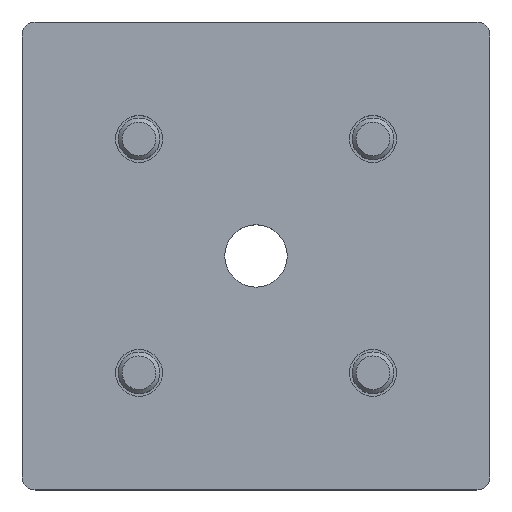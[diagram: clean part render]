
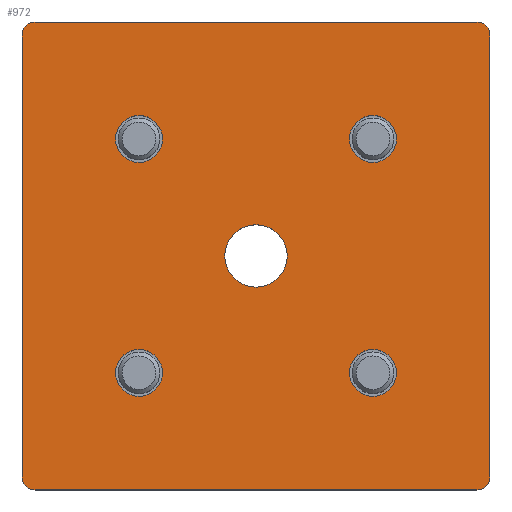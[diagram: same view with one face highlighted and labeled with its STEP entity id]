
A CAD part, top view. The second image highlights one B-rep face of the part: STEP entity #972.
In plain terms, the highlighted planar face has unit normal (0, 0, 1).
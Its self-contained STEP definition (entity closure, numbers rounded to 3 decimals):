
#341=CARTESIAN_POINT('',(-45.0,42.5,15.0));
#342=VERTEX_POINT('',#341);
#349=CARTESIAN_POINT('',(-42.5,45.0,15.0));
#350=VERTEX_POINT('',#349);
#351=CARTESIAN_POINT('',(-42.5,42.5,15.0));
#352=DIRECTION('',(0.0,0.0,-1.));
#353=DIRECTION('',(-0.707,0.707,0.0));
#354=AXIS2_PLACEMENT_3D('',#351,#352,#353);
#355=CIRCLE('',#354,2.5);
#356=EDGE_CURVE('',#342,#350,#355,.T.);
#373=CARTESIAN_POINT('',(-45.0,-42.5,15.0));
#374=VERTEX_POINT('',#373);
#381=CARTESIAN_POINT('',(-45.0,-42.5,15.0));
#382=DIRECTION('',(0.0,1.0,0.0));
#383=VECTOR('',#382,85.0);
#384=LINE('',#381,#383);
#385=EDGE_CURVE('',#374,#342,#384,.T.);
#397=CARTESIAN_POINT('',(-42.5,-45.0,15.0));
#398=VERTEX_POINT('',#397);
#405=CARTESIAN_POINT('',(-42.5,-42.5,15.0));
#406=DIRECTION('',(0.0,0.0,-1.));
#407=DIRECTION('',(-0.707,-0.707,0.0));
#408=AXIS2_PLACEMENT_3D('',#405,#406,#407);
#409=CIRCLE('',#408,2.5);
#410=EDGE_CURVE('',#398,#374,#409,.T.);
#422=CARTESIAN_POINT('',(42.5,-45.0,15.0));
#423=VERTEX_POINT('',#422);
#430=CARTESIAN_POINT('',(42.5,-45.0,15.0));
#431=DIRECTION('',(-1.0,0.0,0.0));
#432=VECTOR('',#431,85.0);
#433=LINE('',#430,#432);
#434=EDGE_CURVE('',#423,#398,#433,.T.);
#757=CARTESIAN_POINT('',(42.5,45.0,15.0));
#758=VERTEX_POINT('',#757);
#765=CARTESIAN_POINT('',(45.0,42.5,15.0));
#766=VERTEX_POINT('',#765);
#767=CARTESIAN_POINT('',(42.5,42.5,15.0));
#768=DIRECTION('',(0.0,0.0,-1.));
#769=DIRECTION('',(0.707,0.707,0.0));
#770=AXIS2_PLACEMENT_3D('',#767,#768,#769);
#771=CIRCLE('',#770,2.5);
#772=EDGE_CURVE('',#758,#766,#771,.T.);
#790=CARTESIAN_POINT('',(-42.5,45.0,15.0));
#791=DIRECTION('',(1.0,0.0,0.0));
#792=VECTOR('',#791,85.0);
#793=LINE('',#790,#792);
#794=EDGE_CURVE('',#350,#758,#793,.T.);
#806=CARTESIAN_POINT('',(45.0,-42.5,15.0));
#807=VERTEX_POINT('',#806);
#814=CARTESIAN_POINT('',(42.5,-42.5,15.0));
#815=DIRECTION('',(0.0,0.0,-1.));
#816=DIRECTION('',(0.707,-0.707,0.0));
#817=AXIS2_PLACEMENT_3D('',#814,#815,#816);
#818=CIRCLE('',#817,2.5);
#819=EDGE_CURVE('',#807,#423,#818,.T.);
#830=CARTESIAN_POINT('',(6.,0.,15.0));
#831=VERTEX_POINT('',#830);
#832=CARTESIAN_POINT('',(0.0,0.0,15.0));
#833=DIRECTION('',(0.0,0.0,-1.0));
#834=DIRECTION('',(-1.0,0.0,0.0));
#835=AXIS2_PLACEMENT_3D('',#832,#833,#834);
#836=CIRCLE('',#835,6.);
#837=EDGE_CURVE('',#831,#831,#836,.T.);
#853=CARTESIAN_POINT('',(27.,-22.5,15.0));
#854=VERTEX_POINT('',#853);
#855=CARTESIAN_POINT('',(22.5,-22.5,15.0));
#856=DIRECTION('',(0.0,0.0,-1.0));
#857=DIRECTION('',(-1.0,0.0,0.0));
#858=AXIS2_PLACEMENT_3D('',#855,#856,#857);
#859=CIRCLE('',#858,4.5);
#860=EDGE_CURVE('',#854,#854,#859,.T.);
#873=CARTESIAN_POINT('',(-18.,-22.5,15.0));
#874=VERTEX_POINT('',#873);
#875=CARTESIAN_POINT('',(-22.5,-22.5,15.0));
#876=DIRECTION('',(0.0,0.0,-1.0));
#877=DIRECTION('',(-1.0,0.0,0.0));
#878=AXIS2_PLACEMENT_3D('',#875,#876,#877);
#879=CIRCLE('',#878,4.5);
#880=EDGE_CURVE('',#874,#874,#879,.T.);
#893=CARTESIAN_POINT('',(27.0,22.5,15.0));
#894=VERTEX_POINT('',#893);
#895=CARTESIAN_POINT('',(22.5,22.5,15.0));
#896=DIRECTION('',(0.0,0.0,-1.0));
#897=DIRECTION('',(-1.0,0.0,0.0));
#898=AXIS2_PLACEMENT_3D('',#895,#896,#897);
#899=CIRCLE('',#898,4.5);
#900=EDGE_CURVE('',#894,#894,#899,.T.);
#913=CARTESIAN_POINT('',(-18.0,22.5,15.0));
#914=VERTEX_POINT('',#913);
#915=CARTESIAN_POINT('',(-22.5,22.5,15.0));
#916=DIRECTION('',(0.0,0.0,-1.0));
#917=DIRECTION('',(-1.0,0.0,0.0));
#918=AXIS2_PLACEMENT_3D('',#915,#916,#917);
#919=CIRCLE('',#918,4.5);
#920=EDGE_CURVE('',#914,#914,#919,.T.);
#932=CARTESIAN_POINT('',(45.0,42.5,15.0));
#933=DIRECTION('',(0.0,-1.0,0.0));
#934=VECTOR('',#933,85.0);
#935=LINE('',#932,#934);
#936=EDGE_CURVE('',#766,#807,#935,.T.);
#942=CARTESIAN_POINT('',(0.0,0.,15.0));
#943=DIRECTION('',(0.0,0.0,1.0));
#944=DIRECTION('',(1.0,0.0,0.0));
#945=AXIS2_PLACEMENT_3D('',#942,#943,#944);
#946=PLANE('',#945);
#947=ORIENTED_EDGE('',*,*,#772,.F.);
#948=ORIENTED_EDGE('',*,*,#794,.F.);
#949=ORIENTED_EDGE('',*,*,#356,.F.);
#950=ORIENTED_EDGE('',*,*,#385,.F.);
#951=ORIENTED_EDGE('',*,*,#410,.F.);
#952=ORIENTED_EDGE('',*,*,#434,.F.);
#953=ORIENTED_EDGE('',*,*,#819,.F.);
#954=ORIENTED_EDGE('',*,*,#936,.F.);
#955=EDGE_LOOP('',(#947,#948,#949,#950,#951,#952,#953,#954));
#956=FACE_OUTER_BOUND('',#955,.T.);
#957=ORIENTED_EDGE('',*,*,#837,.T.);
#958=EDGE_LOOP('',(#957));
#959=FACE_BOUND('',#958,.T.);
#960=ORIENTED_EDGE('',*,*,#860,.T.);
#961=EDGE_LOOP('',(#960));
#962=FACE_BOUND('',#961,.T.);
#963=ORIENTED_EDGE('',*,*,#880,.T.);
#964=EDGE_LOOP('',(#963));
#965=FACE_BOUND('',#964,.T.);
#966=ORIENTED_EDGE('',*,*,#900,.T.);
#967=EDGE_LOOP('',(#966));
#968=FACE_BOUND('',#967,.T.);
#969=ORIENTED_EDGE('',*,*,#920,.T.);
#970=EDGE_LOOP('',(#969));
#971=FACE_BOUND('',#970,.T.);
#972=ADVANCED_FACE('',(#956,#959,#962,#965,#968,#971),#946,.T.);
